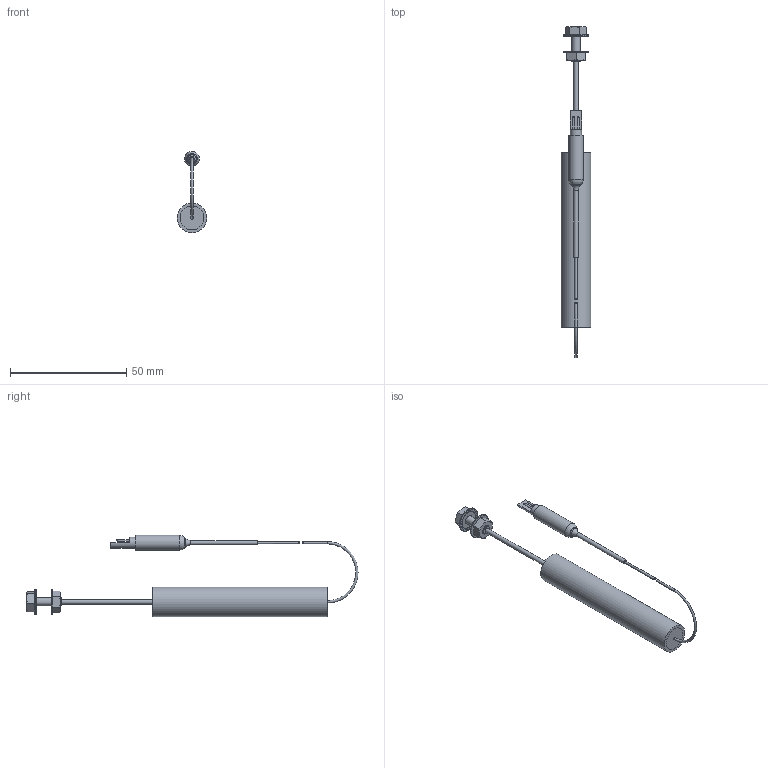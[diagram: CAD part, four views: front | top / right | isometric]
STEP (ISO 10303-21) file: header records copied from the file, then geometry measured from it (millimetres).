
FILE_DESCRIPTION(/* description */ (''),/* implementation_level */ '2;1');
FILE_NAME(/* name */ 'Z:\Drawings\Projects\2018\2018-0123\6132-0002.stp',/* time_stamp */ '2017-12-08T15:43:54-05:00',/* author */ ('chad_thelen'),/* organization */ (''),/* preprocessor_version */ 'ST-DEVELOPER v15.6',/* originating_system */ 'Autodesk Inventor 2015',/* authorisation */ '');
FILE_SCHEMA (('AUTOMOTIVE_DESIGN { 1 0 10303 214 3 1 1 }'));
Length unit declared in the file: inch
Products named in the file (12): 2018-0114; 2018-0101; 9008-0029; 9023-0000; Shrinkwrap; 9008-0029-ASY; Cable; Potting; Core; 2018-0130; 91343A101_TYPE 316 SS SERRATED-FLANGE LOCKNUT; 2018-0123
Assembly tree (12 placements, depth 3):
  2018-0123
    2018-0114
    2018-0101
    9008-0029-ASY
      9008-0029
      9023-0000
      Shrinkwrap
    Cable
    Potting
    Core
    2018-0130
    91343A101_TYPE 316 SS SERRATED-FLANGE LOCKNUT  x2
Bounding box: 12.7 x 142.67 x 34.94 mm (x, y, z)
Volume: 5306.1 mm3; surface area: 9331 mm2
Topology: 12 solids, 12 shells, 411 faces, 1038 edges, 666 vertices
Faces by surface type: plane 337, cylinder 44, cone 19, bspline 6, torus 3, sphere 2
Full cylindrical faces by diameter (mm): 0.686 x4, 0.711 x4, 0.991 x8, 1.016 x1, 1.27 x4, 1.88 x1, 1.93 x2, 2.222 x2, 3.505 x1, 4.762 x1, 5.334 x1, 5.486 x2, 6.375 x1, 8.077 x2, 10.033 x1, 10.21 x1, 10.211 x1, 10.716 x2, 12.7 x1
Entity records: 8648 total; most frequent: CARTESIAN_POINT 2220, DIRECTION 1357, ORIENTED_EDGE 1144, EDGE_CURVE 572, AXIS2_PLACEMENT_3D 523, VERTEX_POINT 392, EDGE_LOOP 344, LINE 311
